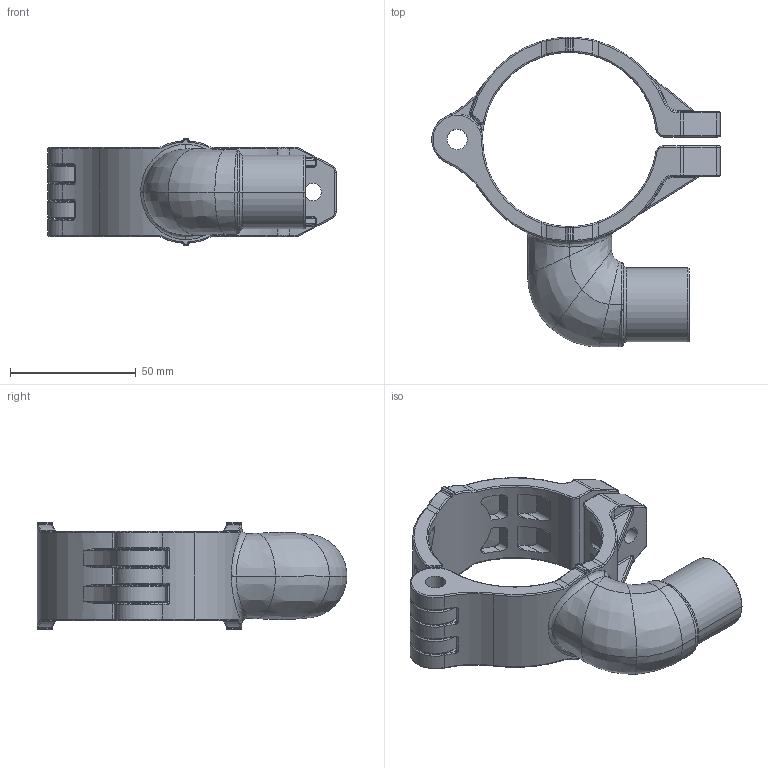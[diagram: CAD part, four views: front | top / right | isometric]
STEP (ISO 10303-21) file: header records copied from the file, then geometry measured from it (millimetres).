
FILE_DESCRIPTION((''),'2;1');
FILE_NAME('AU15601100_ASM_5_ASM','2017-05-15T',('Administrator'),(''),'PRO/ENGINEER BY PARAMETRIC TECHNOLOGY CORPORATION, 2009360','PRO/ENGINEER BY PARAMETRIC TECHNOLOGY CORPORATION, 2009360','');
FILE_SCHEMA(('AUTOMOTIVE_DESIGN_CC2 { 1 2 10303 214 -1 1 5 2 }'));
Length unit declared in the file: millimetre
Products named in the file (3): 2017_6011_00_00_1; 2016_6210_00_01_2; AU15601100_ASM_5_ASM
Assembly tree (2 placements, depth 2):
  AU15601100_ASM_5_ASM
    2017_6011_00_00_1
    2016_6210_00_01_2
Bounding box: 114.74 x 123.15 x 42.81 mm (x, y, z)
Volume: 100097.5 mm3; surface area: 41521 mm2
Topology: 2 solids, 2 shells, 616 faces, 1542 edges, 931 vertices
Faces by surface type: cylinder 243, bspline 131, torus 119, plane 105, sphere 16, cone 2
Entity records: 32103 total; most frequent: CARTESIAN_POINT 13784, ORIENTED_EDGE 3038, DIRECTION 2676, PRESENTATION_STYLE_ASSIGNMENT 1521, STYLED_ITEM 1521, CURVE_STYLE 1519, EDGE_CURVE 1519, AXIS2_PLACEMENT_3D 1121
